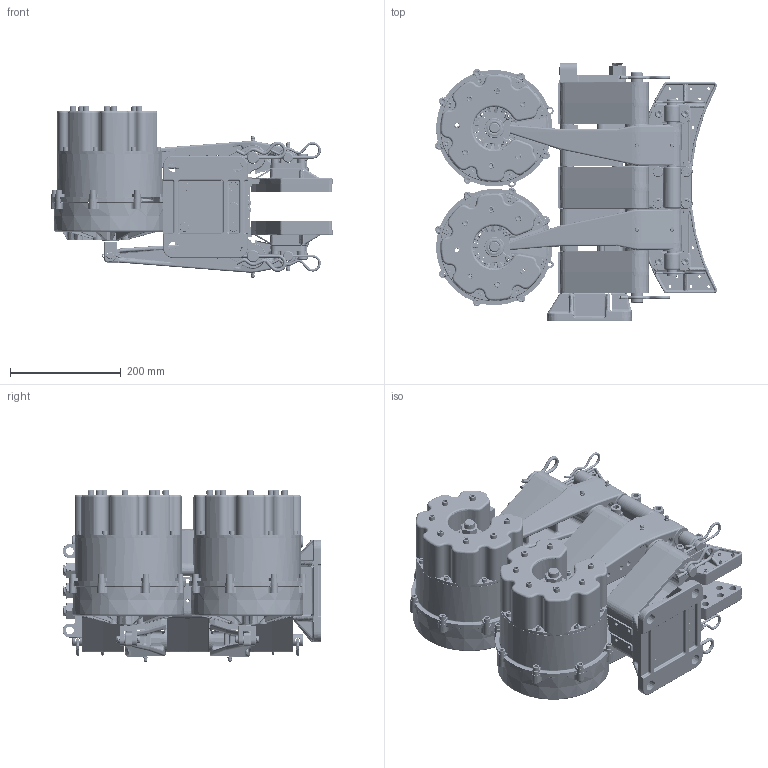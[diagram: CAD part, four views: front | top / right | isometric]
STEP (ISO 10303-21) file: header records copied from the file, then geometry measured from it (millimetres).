
FILE_DESCRIPTION (( 'STEP AP214' ), '1' );
FILE_NAME ('5027-SA-RH.STEP', '2017-08-31T18:04:36', ( '' ), ( '' ), 'SwSTEP 2.0', 'SolidWorks 2017', '' );
FILE_SCHEMA (( 'AUTOMOTIVE_DESIGN' ));
Length unit declared in the file: inch
Products named in the file (1): 5027-SA-RH
Bounding box: 508.53 x 466.73 x 308.49 mm (x, y, z)
Surface area: 2082691 mm2 (no closed solid volume)
Topology: 0 solids, 293 shells, 4622 faces, 15060 edges, 10218 vertices
Faces by surface type: plane 1399, cylinder 1351, bspline 712, cone 595, torus 539, sphere 26
Full cylindrical faces by diameter (mm): 0.794 x1, 4.445 x12, 4.775 x36, 5.105 x13, 6.147 x12, 6.35 x40, 6.528 x25, 6.747 x4, 7.937 x2, 8.335 x4, 8.89 x15, 9.525 x25, 10.716 x1, 11.303 x27, 11.557 x28, 12.598 x2, 12.7 x2, 12.903 x48, 13.97 x2, 14.275 x10, 16.667 x5, 19.05 x137, 22.225 x2, 31.725 x2, 35.509 x2, 35.56 x2, 44.45 x2, 193.675 x2
Entity records: 289106 total; most frequent: CARTESIAN_POINT 119054, DIRECTION 21590, ORIENTED_EDGE 20922, EDGE_CURVE 13721, VERTEX_POINT 9782, AXIS2_PLACEMENT_3D 8774, EDGE_LOOP 5860, CIRCLE 4993
